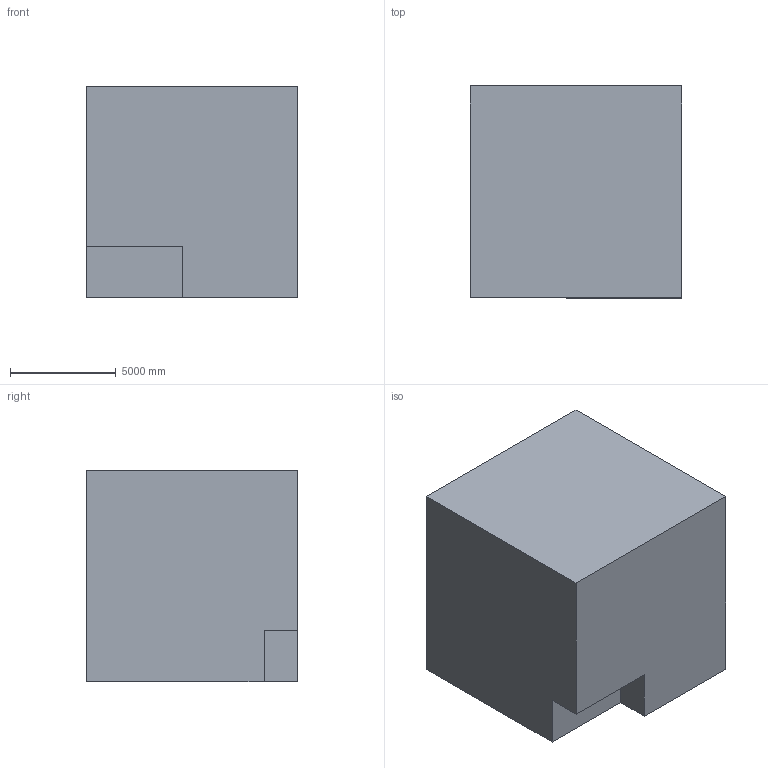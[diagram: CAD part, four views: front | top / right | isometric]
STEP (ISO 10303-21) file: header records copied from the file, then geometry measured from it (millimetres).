
FILE_DESCRIPTION (( 'STEP AP203' ), '1' );
FILE_NAME ('170.STEP', '2022-07-28T13:48:10', ( 'user' ), ( '' ), 'SwSTEP 2.0', 'SolidWorks 2021', '' );
FILE_SCHEMA (( 'CONFIG_CONTROL_DESIGN' ));
Length unit declared in the file: centimetre
Products named in the file (1): 170
Bounding box: 10000 x 10000 x 10000 mm (x, y, z)
Volume: 966395398468 mm3; surface area: 592993874.8 mm2
Topology: 1 solids, 1 shells, 11 faces, 27 edges, 18 vertices
Faces by surface type: plane 11
Entity records: 398 total; most frequent: CARTESIAN_POINT 57, ORIENTED_EDGE 54, DIRECTION 51, LINE 27, VECTOR 27, EDGE_CURVE 27, VERTEX_POINT 18, AXIS2_PLACEMENT_3D 12
